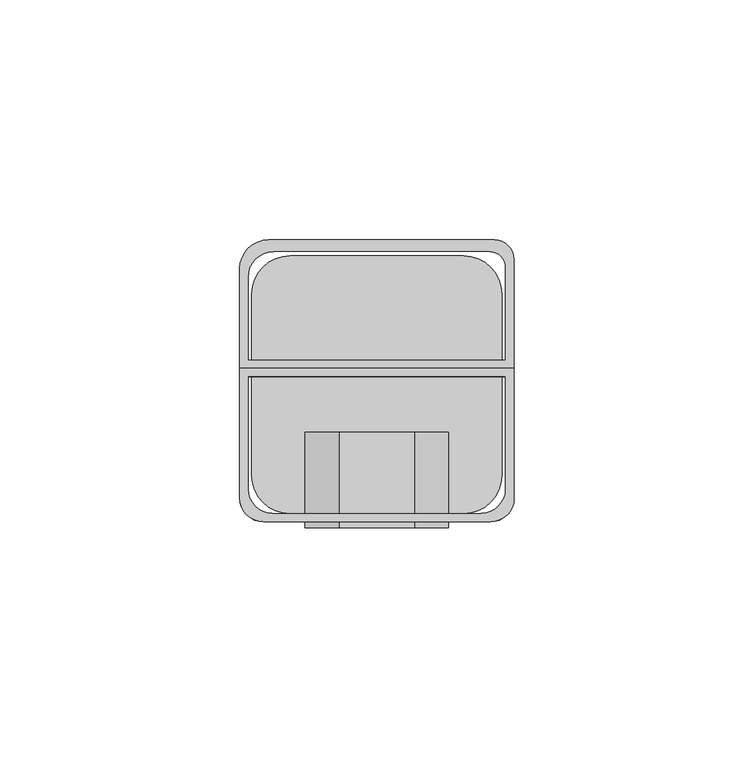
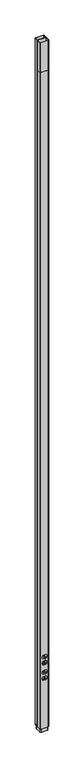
"""IFC4 building model written with IfcOpenShell, lengths in millimetres: proxy geometry, Tele-Power_Poles-Wiremold-Aluminum_Tele-Power_Pole : AMDTP-415 - Aluminum."""

import ifcopenshell
import ifcopenshell.guid

model = None  # the IFC model being written
_history = None  # IfcOwnerHistory: only IFC2X3 demands one
_inside = {}  # id of a spatial element -> (the spatial element, [elements in it])
_under = {}  # id of a project, library or spatial element -> (it, [spatial elements below it])
_declared = {}  # id of a project -> (the project, [libraries it declares])
_typed = {}  # id of a type object -> (the type object, [elements of that type])
_made_of = {}  # id of a material, layer set ... -> (it, [elements and type objects made of it])


def new_model(schema):
    """Start an empty IFC model of exactly this schema.

    Asked for "IFC4X3", IfcOpenShell would pick the latest addendum, in which some entities
    have other attributes; the version numbers below select the first issue.
    IFC2X3 requires an IfcOwnerHistory on every rooted entity: one is made here for all.
    """
    global model, _history
    if schema == "IFC4X3":
        model = ifcopenshell.file(schema_version=(4, 3, 0, 0))
    else:
        model = ifcopenshell.file(schema=schema)
    _inside.clear()
    _under.clear()
    _declared.clear()
    _typed.clear()
    _made_of.clear()
    _history = None
    if model.schema == "IFC2X3":
        org = make("IfcOrganization", Name="unknown")
        user = make(
            "IfcPersonAndOrganization",
            ThePerson=make("IfcPerson", FamilyName="unknown"),
            TheOrganization=org,
        )
        app = make(
            "IfcApplication",
            ApplicationDeveloper=org,
            Version="unknown",
            ApplicationFullName="unknown",
            ApplicationIdentifier="unknown",
        )
        _history = make(
            "IfcOwnerHistory",
            OwningUser=user,
            OwningApplication=app,
            ChangeAction="ADDED",
            CreationDate=0,
        )
    return model


def make(cls, **values):
    """One entity of the class cls with the attributes given. An attribute that is None is left unset."""
    return model.create_entity(
        cls, **{name: value for name, value in values.items() if value is not None}
    )


def rooted(cls, **values):
    """An entity with a GlobalId (a new one), such as an element, a storey or a relation."""
    return make(cls, GlobalId=ifcopenshell.guid.new(), OwnerHistory=_history, **values)


def si_unit(unit_type, name, prefix=None):
    """IfcSIUnit, for example si_unit("LENGTHUNIT", "METRE", prefix="MILLI")."""
    return make("IfcSIUnit", UnitType=unit_type, Prefix=prefix, Name=name)


def assignment(units):
    """IfcUnitAssignment: the units of a project."""
    return None if units is None else make("IfcUnitAssignment", Units=units)


def point(xyz):
    """IfcCartesianPoint."""
    return None if xyz is None else make("IfcCartesianPoint", Coordinates=xyz)


def direction(xyz):
    """IfcDirection."""
    return None if xyz is None else make("IfcDirection", DirectionRatios=xyz)


def frame(location, z_axis=None, x_axis=None):
    """IfcAxis2Placement3D, a coordinate frame: its origin and axes. An axis left out is left unset."""
    return make(
        "IfcAxis2Placement3D",
        Location=point(location),
        Axis=direction(z_axis),
        RefDirection=direction(x_axis),
    )


def frame_2d(location, x_axis=None):
    """IfcAxis2Placement2D, a coordinate frame in the plane: its origin and x axis."""
    return make(
        "IfcAxis2Placement2D", Location=point(location), RefDirection=direction(x_axis)
    )


def origin():
    """The frame at (0, 0, 0) with its axes left unset."""
    return frame((0.0, 0.0, 0.0))


def origin_with_axes():
    """The frame at (0, 0, 0) with the z axis (0, 0, 1) and the x axis (1, 0, 0) written out."""
    return frame((0.0, 0.0, 0.0), z_axis=(0.0, 0.0, 1.0), x_axis=(1.0, 0.0, 0.0))


def place(relative_to, where):
    """IfcLocalPlacement: puts the frame where relative to a parent placement (None: the world)."""
    return make(
        "IfcLocalPlacement", PlacementRelTo=relative_to, RelativePlacement=where
    )


def context(
    kind, dimensions, precision=None, world=None, true_north=None, identifier=None
):
    """IfcGeometricRepresentationContext, for example the 3D "Model" context."""
    return make(
        "IfcGeometricRepresentationContext",
        ContextIdentifier=identifier,
        ContextType=kind,
        CoordinateSpaceDimension=dimensions,
        Precision=precision,
        WorldCoordinateSystem=world,
        TrueNorth=true_north,
    )


def project(units=None, contexts=None):
    """IfcProject with its units and contexts."""
    return rooted(
        "IfcProject",
        Name="project",
        RepresentationContexts=contexts,
        UnitsInContext=assignment(units),
    )


def spatial(cls, under=None, at=None, **own):
    """A site, building, storey or space (cls), placed at a placement, below another one or the project."""
    s = rooted(cls, ObjectPlacement=at, **own)
    if under is not None:
        _under.setdefault(under.id(), (under, []))[1].append(s)
    return s


def polyline(points):
    """IfcPolyline through the points."""
    return make("IfcPolyline", Points=[point(p) for p in points])


def circle_curve(where, radius):
    """IfcCircle in the frame where."""
    return make("IfcCircle", Position=where, Radius=radius)


def trimmed(basis, trim1, trim2, sense, master):
    """IfcTrimmedCurve: the piece of a basis curve between two trims."""
    return make(
        "IfcTrimmedCurve",
        BasisCurve=basis,
        Trim1=trim1,
        Trim2=trim2,
        SenseAgreement=sense,
        MasterRepresentation=master,
    )


def segment(curve, same_sense, transition):
    """IfcCompositeCurveSegment."""
    return make(
        "IfcCompositeCurveSegment",
        Transition=transition,
        SameSense=same_sense,
        ParentCurve=curve,
    )


def composite_curve(segments, self_intersect=None):
    """IfcCompositeCurve: segments joined end to end."""
    return make("IfcCompositeCurve", Segments=segments, SelfIntersect=self_intersect)


def outline(outer, holes=None, kind="AREA"):
    """IfcArbitraryClosedProfileDef: a profile drawn as a closed curve; with holes, ...WithVoids."""
    if holes is None:
        return make("IfcArbitraryClosedProfileDef", ProfileType=kind, OuterCurve=outer)
    return make(
        "IfcArbitraryProfileDefWithVoids",
        ProfileType=kind,
        OuterCurve=outer,
        InnerCurves=holes,
    )


def extrude(swept, where, along, depth):
    """IfcExtrudedAreaSolid: the profile swept, set in the frame where, extruded along a direction by depth."""
    return make(
        "IfcExtrudedAreaSolid",
        SweptArea=swept,
        Position=where,
        ExtrudedDirection=direction(along),
        Depth=depth,
    )


def shape(context_of_items, identifier, shape_type, items):
    """IfcShapeRepresentation: the items that make up one representation, for example the "Body"."""
    return make(
        "IfcShapeRepresentation",
        ContextOfItems=context_of_items,
        RepresentationIdentifier=identifier,
        RepresentationType=shape_type,
        Items=items,
    )


def source(mapping_origin, context_of_items, identifier, shape_type, items):
    """IfcRepresentationMap: a shape defined once, which mapped items show again and again."""
    return make(
        "IfcRepresentationMap",
        MappingOrigin=mapping_origin,
        MappedRepresentation=shape(context_of_items, identifier, shape_type, items),
    )


def transform(
    local_origin,
    x_axis=None,
    y_axis=None,
    z_axis=None,
    scale=None,
    scale2=None,
    scale3=None,
    uniform=True,
):
    """IfcCartesianTransformationOperator3D, or its non-uniform kind. x_axis, y_axis, z_axis: its Axis1, 2, 3."""
    if uniform:
        return make(
            "IfcCartesianTransformationOperator3D",
            Axis1=direction(x_axis),
            Axis2=direction(y_axis),
            LocalOrigin=point(local_origin),
            Scale=scale,
            Axis3=direction(z_axis),
        )
    return make(
        "IfcCartesianTransformationOperator3DnonUniform",
        Axis1=direction(x_axis),
        Axis2=direction(y_axis),
        LocalOrigin=point(local_origin),
        Scale=scale,
        Axis3=direction(z_axis),
        Scale2=scale2,
        Scale3=scale3,
    )


def mapped(mapping_source, mapping_target):
    """IfcMappedItem: shows the shape of a source again, moved by a transform."""
    return make(
        "IfcMappedItem", MappingSource=mapping_source, MappingTarget=mapping_target
    )


def made_of(thing, what):
    """Note that an element or type object is made of a material, layer set ...; save() writes the relation."""
    if what is not None:
        _made_of.setdefault(what.id(), (what, []))[1].append(thing)
    return thing


def element(
    cls,
    number,
    at=None,
    inside=None,
    cuts=None,
    type_object=None,
    material=None,
    context=None,
    identifier="Body",
    shape_type=None,
    held_by="IfcProductDefinitionShape",
    body=None,
    shapes=None,
    **own,
):
    """One element of the class cls, such as IfcWall. Its Tag is "e" and its number.

    at: its placement. inside: the storey or other place that contains it. cuts: it is an
    opening in that element (IfcRelVoidsElement). A single representation is given by context,
    identifier, shape_type and body (its items); several are given by shapes. held_by: the class
    of the entity that holds the representations. save() writes the other relations.
    """
    e = rooted(cls, Tag="e%d" % number, ObjectPlacement=at, **own)
    if body is not None:
        shapes = [shape(context, identifier, shape_type, body)]
    if shapes is not None:
        e.Representation = make(held_by, Representations=shapes)
    if inside is not None:
        _inside.setdefault(inside.id(), (inside, []))[1].append(e)
    if cuts is not None:
        rooted(
            "IfcRelVoidsElement", RelatingBuildingElement=cuts, RelatedOpeningElement=e
        )
    if type_object is not None:
        _typed.setdefault(type_object.id(), (type_object, []))[1].append(e)
    return made_of(e, material)


def aggregate(whole, parts):
    """IfcRelAggregates: a whole, such as a stair, and the parts it consists of."""
    return rooted("IfcRelAggregates", RelatingObject=whole, RelatedObjects=parts)


def save(model, path):
    """Write the relations noted so far, then the file.

    IfcRelAggregates (storeys below a building ...), IfcRelContainedInSpatialStructure (elements
    in a storey), IfcRelDefinesByType, IfcRelAssociatesMaterial and IfcRelDeclares: one each for
    every whole, place, type object, material and project.
    """
    for whole, parts in _under.values():
        aggregate(whole, parts)
    for where, things in _inside.values():
        rooted(
            "IfcRelContainedInSpatialStructure",
            RelatedElements=things,
            RelatingStructure=where,
        )
    for kind, things in _typed.values():
        rooted("IfcRelDefinesByType", RelatedObjects=things, RelatingType=kind)
    for what, things in _made_of.values():
        rooted("IfcRelAssociatesMaterial", RelatedObjects=things, RelatingMaterial=what)
    for by, libraries in _declared.values():
        rooted("IfcRelDeclares", RelatingContext=by, RelatedDefinitions=libraries)
    model.write(path)


def electrical_fixtures_ff8074c1(model_context):
    return source(origin(), model_context, "Body", "SweptSolid", [
        extrude(outline(composite_curve([segment(trimmed(circle_curve(frame_2d((383.1489583, -1.066293)), 13.933707), [point((395.2960251, -7.8924893))], [point((383.1489583, -15.0))], False, "CARTESIAN"), True, "CONTINUOUS"), segment(polyline([(383.1489583, -15.0), (381.2314332, -15.0)]), True, "CONTINUOUS"), segment(trimmed(circle_curve(frame_2d((381.2314332, -0.8980964)), 14.1019036), [point((381.2314332, -15.0))], [point((369.2960251, -8.4087368))], False, "CARTESIAN"), True, "CONTINUOUS"), segment(polyline([(369.2960251, -8.4087368), (369.2960251, 8.5219574)]), True, "CONTINUOUS"), segment(trimmed(circle_curve(frame_2d((381.1036564, 1.0)), 14.0), [point((369.2960251, 8.5219574))], [point((381.1036564, 15.0))], False, "CARTESIAN"), True, "CONTINUOUS"), segment(polyline([(381.1036564, 15.0), (383.1911595, 15.0)]), True, "CONTINUOUS"), segment(trimmed(circle_curve(frame_2d((383.1911595, 1.0137234)), 13.9862766), [point((383.1911595, 15.0))], [point((395.2960251, 8.0200178))], False, "CARTESIAN"), True, "CONTINUOUS"), segment(polyline([(395.2960251, 8.0200178), (395.2960251, -7.8924893)]), True, "CONTINUOUS")], self_intersect=False), holes=[polyline([(381.4352273, -5.4971077), (373.4977273, -5.4971077), (373.4977273, -7.0864631), (381.4352273, -7.0864631), (381.4352273, -5.4971077)]), polyline([(374.2914773, 5.3273064), (380.6414773, 5.3273064), (380.6414773, 6.9135369), (374.2914773, 6.9135369), (374.2914773, 5.3273064)]), composite_curve([segment(polyline([(391.8789773, 2.2744253), (388.7039773, 2.2744253)]), True, "CONTINUOUS"), segment(trimmed(circle_curve(frame_2d((388.7039773, -0.1068247)), 2.38125), [point((388.7039773, 2.2744253))], [point((388.7039773, -2.4880747))], True, "CARTESIAN"), True, "CONTINUOUS"), segment(polyline([(388.7039773, -2.4880747), (391.8789773, -2.4880747), (391.8789773, 2.2744253)]), True, "CONTINUOUS")], self_intersect=False)]), frame((0.0, -29.86875, 0.0), z_axis=(0.0, 1.0, 0.0), x_axis=(0.0, 0.0, 1.0)), (0.0, 0.0, 1.0), 19.8625),
        extrude(outline(composite_curve([segment(polyline([(353.4960251, 8.7277208), (353.4960251, -8.6182874)]), True, "CONTINUOUS"), segment(trimmed(circle_curve(frame_2d((341.791413, -1.0755089)), 13.9244911), [point((353.4960251, -8.6182874))], [point((341.791413, -15.0))], False, "CARTESIAN"), True, "CONTINUOUS"), segment(polyline([(341.791413, -15.0), (339.8667378, -15.0)]), True, "CONTINUOUS"), segment(trimmed(circle_curve(frame_2d((339.8667378, -0.8892045)), 14.1107955), [point((339.8667378, -15.0))], [point((327.4960251, -7.6774309))], False, "CARTESIAN"), True, "CONTINUOUS"), segment(polyline([(327.4960251, -7.6774309), (327.4960251, 7.7995466)]), True, "CONTINUOUS"), segment(trimmed(circle_curve(frame_2d((339.7391341, 0.9911428)), 14.0088572), [point((327.4960251, 7.7995466))], [point((339.7391341, 15.0))], False, "CARTESIAN"), True, "CONTINUOUS"), segment(polyline([(339.7391341, 15.0), (341.8335943, 15.0)]), True, "CONTINUOUS"), segment(trimmed(circle_curve(frame_2d((341.8335943, 1.0215264)), 13.9784736), [point((341.8335943, 15.0))], [point((353.4960251, 8.7277208))], False, "CARTESIAN"), True, "CONTINUOUS")], self_intersect=False), holes=[polyline([(340.0352273, -5.6609185), (332.0977273, -5.6609185), (332.0977273, -7.2502739), (340.0352273, -7.2502739), (340.0352273, -5.6609185)]), polyline([(332.8914773, 5.3273064), (339.2414773, 5.3273064), (339.2414773, 6.9135369), (332.8914773, 6.9135369), (332.8914773, 5.3273064)]), composite_curve([segment(polyline([(350.4789773, 2.2744253), (347.3039773, 2.2744253)]), True, "CONTINUOUS"), segment(trimmed(circle_curve(frame_2d((347.3039773, -0.1068247)), 2.38125), [point((347.3039773, 2.2744253))], [point((347.3039773, -2.4880747))], True, "CARTESIAN"), True, "CONTINUOUS"), segment(polyline([(347.3039773, -2.4880747), (350.4789773, -2.4880747), (350.4789773, 2.2744253)]), True, "CONTINUOUS")], self_intersect=False)]), frame((0.0, -29.86875, 0.0), z_axis=(0.0, 1.0, 0.0), x_axis=(0.0, 0.0, 1.0)), (0.0, 0.0, 1.0), 19.8625),
        extrude(outline(composite_curve([segment(polyline([(28.575, 2.63125), (28.575, -25.36875)]), True, "CONTINUOUS"), segment(trimmed(circle_curve(frame_2d((23.6760205, -24.36875)), 5.0), [point((28.575, -25.36875))], [point((23.6760205, -29.36875))], False, "CARTESIAN"), True, "CONTINUOUS"), segment(polyline([(23.6760205, -29.36875), (-23.575, -29.36875)]), True, "CONTINUOUS"), segment(trimmed(circle_curve(frame_2d((-23.575, -24.36875)), 5.0), [point((-23.575, -29.36875))], [point((-28.575, -24.36875))], False, "CARTESIAN"), True, "CONTINUOUS"), segment(polyline([(-28.575, -24.36875), (-28.575, 2.63125), (28.575, 2.63125)]), True, "CONTINUOUS")], self_intersect=False), holes=[composite_curve([segment(polyline([(-26.775, 0.83125), (-26.775, -22.56875)]), True, "CONTINUOUS"), segment(trimmed(circle_curve(frame_2d((-21.775, -22.56875)), 5.0), [point((-26.775, -22.56875))], [point((-21.775, -27.56875))], True, "CARTESIAN"), True, "CONTINUOUS"), segment(polyline([(-21.775, -27.56875), (21.775, -27.56875)]), True, "CONTINUOUS"), segment(trimmed(circle_curve(frame_2d((21.775, -22.56875)), 5.0), [point((21.775, -27.56875))], [point((26.775, -22.56875))], True, "CARTESIAN"), True, "CONTINUOUS"), segment(polyline([(26.775, -22.56875), (26.775, 0.83125), (-26.775, 0.83125)]), True, "CONTINUOUS")], self_intersect=False)]), frame((0.0, 0.0, 4495.8), z_axis=(0.0, 0.0, 1.0), x_axis=(1.0, 0.0, 0.0)), (0.0, 0.0, 1.0), 203.2),
        extrude(outline(composite_curve([segment(polyline([(28.575, 2.63125), (28.575, -25.36875)]), True, "CONTINUOUS"), segment(trimmed(circle_curve(frame_2d((23.6760205, -24.36875)), 5.0), [point((28.575, -25.36875))], [point((23.6760205, -29.36875))], False, "CARTESIAN"), True, "CONTINUOUS"), segment(polyline([(23.6760205, -29.36875), (-23.575, -29.36875)]), True, "CONTINUOUS"), segment(trimmed(circle_curve(frame_2d((-23.575, -24.36875)), 5.0), [point((-23.575, -29.36875))], [point((-28.575, -24.36875))], False, "CARTESIAN"), True, "CONTINUOUS"), segment(polyline([(-28.575, -24.36875), (-28.575, 2.63125), (28.575, 2.63125)]), True, "CONTINUOUS")], self_intersect=False), holes=[composite_curve([segment(polyline([(-26.775, 0.83125), (-26.775, -22.56875)]), True, "CONTINUOUS"), segment(trimmed(circle_curve(frame_2d((-21.775, -22.56875)), 5.0), [point((-26.775, -22.56875))], [point((-21.775, -27.56875))], True, "CARTESIAN"), True, "CONTINUOUS"), segment(polyline([(-21.775, -27.56875), (21.775, -27.56875)]), True, "CONTINUOUS"), segment(trimmed(circle_curve(frame_2d((21.775, -22.56875)), 5.0), [point((21.775, -27.56875))], [point((26.775, -22.56875))], True, "CARTESIAN"), True, "CONTINUOUS"), segment(polyline([(26.775, -22.56875), (26.775, 0.83125), (-26.775, 0.83125)]), True, "CONTINUOUS")], self_intersect=False)]), origin_with_axes(), (0.0, 0.0, 1.0), 4495.8),
        extrude(outline(composite_curve([segment(trimmed(circle_curve(frame_2d((488.7029331, -1.066293)), 13.933707), [point((500.85, -7.8924893))], [point((488.7029331, -15.0))], False, "CARTESIAN"), True, "CONTINUOUS"), segment(polyline([(488.7029331, -15.0), (486.7854081, -15.0)]), True, "CONTINUOUS"), segment(trimmed(circle_curve(frame_2d((486.7854081, -0.8980964)), 14.1019036), [point((486.7854081, -15.0))], [point((474.85, -8.4087368))], False, "CARTESIAN"), True, "CONTINUOUS"), segment(polyline([(474.85, -8.4087368), (474.85, 8.5219574)]), True, "CONTINUOUS"), segment(trimmed(circle_curve(frame_2d((486.6576313, 1.0)), 14.0), [point((474.85, 8.5219574))], [point((486.6576313, 15.0))], False, "CARTESIAN"), True, "CONTINUOUS"), segment(polyline([(486.6576313, 15.0), (488.7451343, 15.0)]), True, "CONTINUOUS"), segment(trimmed(circle_curve(frame_2d((488.7451343, 1.0137234)), 13.9862766), [point((488.7451343, 15.0))], [point((500.85, 8.0200178))], False, "CARTESIAN"), True, "CONTINUOUS"), segment(polyline([(500.85, 8.0200178), (500.85, -7.8924893)]), True, "CONTINUOUS")], self_intersect=False), holes=[polyline([(486.9892021, -5.4971077), (479.0517021, -5.4971077), (479.0517021, -7.0864631), (486.9892021, -7.0864631), (486.9892021, -5.4971077)]), polyline([(479.8454521, 5.3273064), (486.1954521, 5.3273064), (486.1954521, 6.9135369), (479.8454521, 6.9135369), (479.8454521, 5.3273064)]), composite_curve([segment(polyline([(497.4329521, 2.2744253), (494.2579521, 2.2744253)]), True, "CONTINUOUS"), segment(trimmed(circle_curve(frame_2d((494.2579521, -0.1068247)), 2.38125), [point((494.2579521, 2.2744253))], [point((494.2579521, -2.4880747))], True, "CARTESIAN"), True, "CONTINUOUS"), segment(polyline([(494.2579521, -2.4880747), (497.4329521, -2.4880747), (497.4329521, 2.2744253)]), True, "CONTINUOUS")], self_intersect=False)]), frame((0.0, -29.86875, 0.0), z_axis=(0.0, 1.0, 0.0), x_axis=(0.0, 0.0, 1.0)), (0.0, 0.0, 1.0), 19.8625),
        extrude(outline(composite_curve([segment(polyline([(459.05, 8.7277208), (459.05, -8.6182874)]), True, "CONTINUOUS"), segment(trimmed(circle_curve(frame_2d((447.3453879, -1.0755089)), 13.9244911), [point((459.05, -8.6182874))], [point((447.3453879, -15.0))], False, "CARTESIAN"), True, "CONTINUOUS"), segment(polyline([(447.3453879, -15.0), (445.4207127, -15.0)]), True, "CONTINUOUS"), segment(trimmed(circle_curve(frame_2d((445.4207127, -0.8892045)), 14.1107955), [point((445.4207127, -15.0))], [point((433.05, -7.6774309))], False, "CARTESIAN"), True, "CONTINUOUS"), segment(polyline([(433.05, -7.6774309), (433.05, 7.7995466)]), True, "CONTINUOUS"), segment(trimmed(circle_curve(frame_2d((445.293109, 0.9911428)), 14.0088572), [point((433.05, 7.7995466))], [point((445.293109, 15.0))], False, "CARTESIAN"), True, "CONTINUOUS"), segment(polyline([(445.293109, 15.0), (447.3875692, 15.0)]), True, "CONTINUOUS"), segment(trimmed(circle_curve(frame_2d((447.3875692, 1.0215264)), 13.9784736), [point((447.3875692, 15.0))], [point((459.05, 8.7277208))], False, "CARTESIAN"), True, "CONTINUOUS")], self_intersect=False), holes=[polyline([(445.5892021, -5.6609185), (437.6517021, -5.6609185), (437.6517021, -7.2502739), (445.5892021, -7.2502739), (445.5892021, -5.6609185)]), polyline([(438.4454521, 5.3273064), (444.7954521, 5.3273064), (444.7954521, 6.9135369), (438.4454521, 6.9135369), (438.4454521, 5.3273064)]), composite_curve([segment(polyline([(456.0329521, 2.2744253), (452.8579521, 2.2744253)]), True, "CONTINUOUS"), segment(trimmed(circle_curve(frame_2d((452.8579521, -0.1068247)), 2.38125), [point((452.8579521, 2.2744253))], [point((452.8579521, -2.4880747))], True, "CARTESIAN"), True, "CONTINUOUS"), segment(polyline([(452.8579521, -2.4880747), (456.0329521, -2.4880747), (456.0329521, 2.2744253)]), True, "CONTINUOUS")], self_intersect=False)]), frame((0.0, -29.86875, 0.0), z_axis=(0.0, 1.0, 0.0), x_axis=(0.0, 0.0, 1.0)), (0.0, 0.0, 1.0), 19.8625),
        extrude(outline(composite_curve([segment(trimmed(circle_curve(frame_2d((18.075, 18.86875)), 8.0), [point((18.075, 26.86875))], [point((26.075, 18.86875))], False, "CARTESIAN"), True, "CONTINUOUS"), segment(polyline([(26.075, 18.86875), (26.075, -18.86875)]), True, "CONTINUOUS"), segment(trimmed(circle_curve(frame_2d((18.075, -18.86875)), 8.0), [point((26.075, -18.86875))], [point((18.075, -26.86875))], False, "CARTESIAN"), True, "CONTINUOUS"), segment(polyline([(18.075, -26.86875), (-18.075, -26.86875)]), True, "CONTINUOUS"), segment(trimmed(circle_curve(frame_2d((-18.075, -18.86875)), 8.0), [point((-18.075, -26.86875))], [point((-26.075, -18.86875))], False, "CARTESIAN"), True, "CONTINUOUS"), segment(polyline([(-26.075, -18.86875), (-26.075, 18.86875)]), True, "CONTINUOUS"), segment(trimmed(circle_curve(frame_2d((-18.075, 18.86875)), 8.0), [point((-26.075, 18.86875))], [point((-18.075, 26.86875))], False, "CARTESIAN"), True, "CONTINUOUS"), segment(polyline([(-18.075, 26.86875), (18.075, 26.86875)]), True, "CONTINUOUS")], self_intersect=False)), frame((0.0, 0.0, -25.4), z_axis=(0.0, 0.0, 1.0), x_axis=(1.0, 0.0, 0.0)), (0.0, 0.0, 1.0), 25.4),
        extrude(outline(composite_curve([segment(trimmed(circle_curve(frame_2d((24.575, 25.36875)), 4.0), [point((24.575, 29.36875))], [point((28.575, 25.36875))], False, "CARTESIAN"), True, "CONTINUOUS"), segment(polyline([(28.575, 25.36875), (28.575, 2.63125), (-28.575, 2.63125), (-28.575, 23.31875)]), True, "CONTINUOUS"), segment(trimmed(circle_curve(frame_2d((-22.525, 23.31875)), 6.05), [point((-28.575, 23.31875))], [point((-22.525, 29.36875))], False, "CARTESIAN"), True, "CONTINUOUS"), segment(polyline([(-22.525, 29.36875), (24.575, 29.36875)]), True, "CONTINUOUS")], self_intersect=False), holes=[composite_curve([segment(polyline([(26.775, 4.43125), (26.775, 23.66875)]), True, "CONTINUOUS"), segment(trimmed(circle_curve(frame_2d((23.575, 23.66875)), 3.2), [point((26.775, 23.66875))], [point((23.575, 26.86875))], True, "CARTESIAN"), True, "CONTINUOUS"), segment(polyline([(23.575, 26.86875), (-21.525, 26.86875)]), True, "CONTINUOUS"), segment(trimmed(circle_curve(frame_2d((-21.525, 21.61875)), 5.25), [point((-21.525, 26.86875))], [point((-26.775, 21.61875))], True, "CARTESIAN"), True, "CONTINUOUS"), segment(polyline([(-26.775, 21.61875), (-26.775, 4.43125), (26.775, 4.43125)]), True, "CONTINUOUS")], self_intersect=False)]), origin_with_axes(), (0.0, 0.0, 1.0), 4699.0),
    ])


if __name__ == "__main__":
    model = new_model("IFC4")
    model_context = context("Model", 3, world=origin())
    ifc_project = project(units=[si_unit("LENGTHUNIT", "METRE", prefix="MILLI")], contexts=[model_context])
    site = spatial("IfcSite", under=ifc_project)
    building = spatial("IfcBuilding", under=site)
    placement = place(None, origin())
    electrical_fixtures_shape = electrical_fixtures_ff8074c1(model_context)
    element("IfcBuildingElementProxy", 1, Name="Tele-Power_Poles-Wiremold-Aluminum_Tele-Power_Pole : AMDTP-415 - Aluminum", ObjectType="Tele-Power_Poles-Wiremold-Aluminum_Tele-Power_Pole : AMDTP-415 - Aluminum", at=placement, inside=building, context=model_context, shape_type="MappedRepresentation", body=[
        mapped(electrical_fixtures_shape, transform((0.0, 0.0, 0.0), x_axis=(1.0, 0.0, 0.0), y_axis=(0.0, 1.0, 0.0), z_axis=(0.0, 0.0, 1.0))),
    ])
    save(model, "model.ifc")
